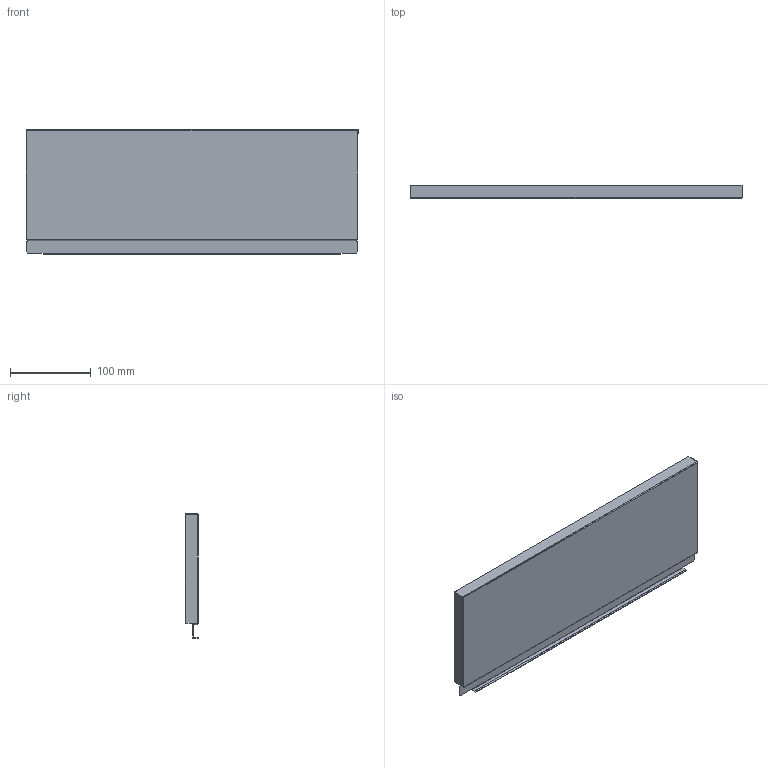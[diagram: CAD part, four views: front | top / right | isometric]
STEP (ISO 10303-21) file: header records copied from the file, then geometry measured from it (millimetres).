
FILE_DESCRIPTION (( 'STEP AP214' ), '1' );
FILE_NAME ('_STRW_H154_KAB_500.step', '2010-08-24T14:40:35', ( 'grass' ), ( '' ), 'SwSTEP 2.0', 'SolidWorks 2009', '' );
FILE_SCHEMA (( 'AUTOMOTIVE_DESIGN' ));
Length unit declared in the file: millimetre
Products named in the file (1): _STRW_H154_KAB_500
Bounding box: 410 x 17 x 154.14 mm (x, y, z)
Volume: 63451.6 mm3; surface area: 159653.2 mm2
Topology: 1 solids, 1 shells, 76 faces, 214 edges, 140 vertices
Faces by surface type: plane 54, cylinder 22
Entity records: 2472 total; most frequent: CARTESIAN_POINT 431, ORIENTED_EDGE 428, DIRECTION 412, EDGE_CURVE 214, LINE 170, VECTOR 170, VERTEX_POINT 140, AXIS2_PLACEMENT_3D 121
